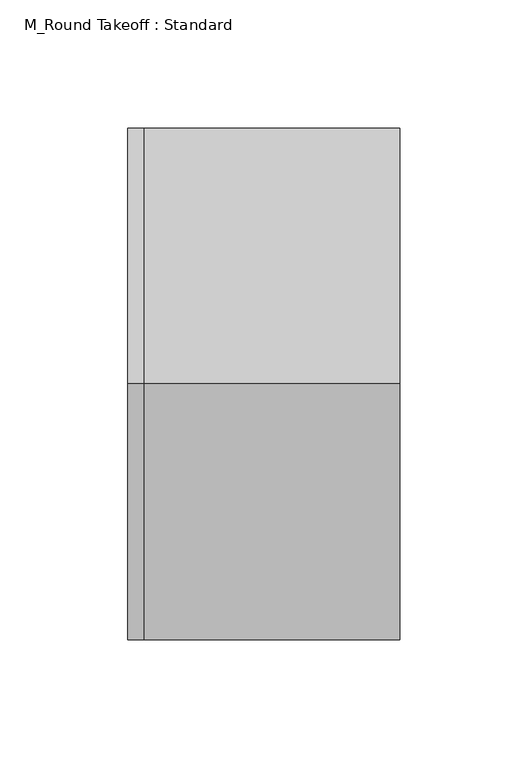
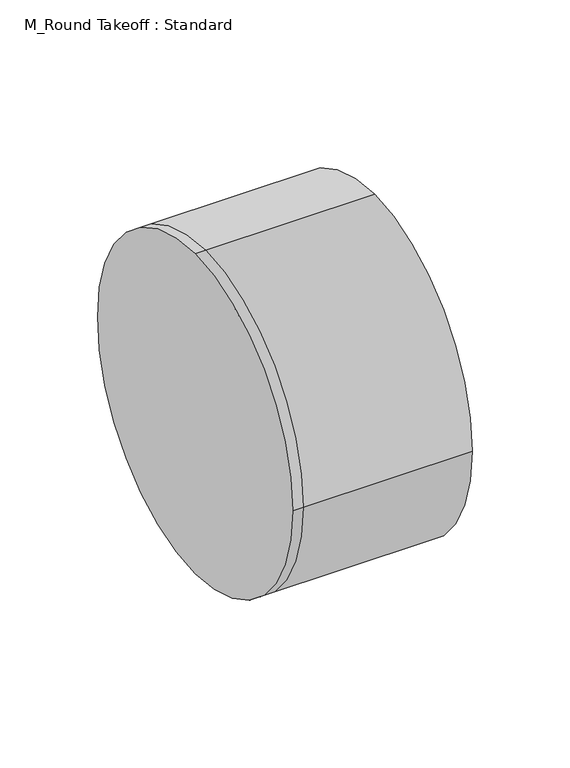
"""IFC4 building model written with IfcOpenShell, lengths in millimetres: duct fitting geometry, M_Round Takeoff : Standard."""

from ifc_helpers import new_model, si_unit, frame, origin, place, context, project, spatial, circle_curve, source, transform, mapped, element, save
from ifc_brep_helpers import plane_surface, cylinder_surface, advanced_brep


def m_round_takeoff_standard_5a05d64d(model_context):
    return source(origin(), model_context, "Body", "AdvancedBrep", [
        advanced_brep(
        [(-6.171, 0.0, 100.0), (-6.171, 100.0, 0.0), (-6.171, 0.0, -100.0), (-6.171, -100.0, 0.0), (0.0, -100.0, 0.0), (0.0, 0.0, 100.0), (0.0, 0.0, -100.0), (0.0, 100.0, 0.0), (100.075, 0.0, 100.0), (100.075, -100.0, 0.0), (100.075, 0.0, -100.0), (100.075, 100.0, 0.0)],
        [
            (0, 1, circle_curve(frame((-6.171, 0.0, 0.0), z_axis=(-1.0, 0.0, 0.0), x_axis=(0.0, -1.0, 0.0)), 100.0)),
            (1, 2, circle_curve(frame((-6.171, 0.0, 0.0), z_axis=(-1.0, 0.0, 0.0), x_axis=(0.0, -1.0, 0.0)), 100.0)),
            (2, 3, circle_curve(frame((-6.171, 0.0, 0.0), z_axis=(-1.0, 0.0, 0.0), x_axis=(0.0, -1.0, 0.0)), 100.0)),
            (3, 0, circle_curve(frame((-6.171, 0.0, 0.0), z_axis=(-1.0, 0.0, 0.0), x_axis=(0.0, -1.0, 0.0)), 100.0)),
            (3, 4),
            (4, 5, circle_curve(frame((0.0, 0.0, 0.0), z_axis=(-1.0, 0.0, 0.0), x_axis=(0.0, -1.0, 0.0)), 100.0)),
            (5, 0),
            (2, 6),
            (6, 4, circle_curve(frame((0.0, 0.0, 0.0), z_axis=(-1.0, 0.0, 0.0), x_axis=(0.0, -1.0, 0.0)), 100.0)),
            (1, 7),
            (7, 6, circle_curve(frame((0.0, 0.0, 0.0), z_axis=(-1.0, 0.0, 0.0), x_axis=(0.0, -1.0, 0.0)), 100.0)),
            (5, 7, circle_curve(frame((0.0, 0.0, 0.0), z_axis=(-1.0, 0.0, 0.0), x_axis=(0.0, -1.0, 0.0)), 100.0)),
            (8, 9, circle_curve(frame((100.075, 0.0, 0.0), z_axis=(1.0, 0.0, 0.0), x_axis=(0.0, -1.0, 0.0)), 100.0)),
            (9, 10, circle_curve(frame((100.075, 0.0, 0.0), z_axis=(1.0, 0.0, 0.0), x_axis=(0.0, -1.0, 0.0)), 100.0)),
            (10, 11, circle_curve(frame((100.075, 0.0, 0.0), z_axis=(1.0, 0.0, 0.0), x_axis=(0.0, -1.0, 0.0)), 100.0)),
            (11, 8, circle_curve(frame((100.075, 0.0, 0.0), z_axis=(1.0, 0.0, 0.0), x_axis=(0.0, -1.0, 0.0)), 100.0)),
            (8, 5),
            (4, 9),
            (6, 10),
            (7, 11),
        ],
        [
            plane_surface(frame((-6.171, 0.0, 0.0), z_axis=(-1.0, 0.0, 0.0), x_axis=(0.0, 0.0, 1.0))),
            cylinder_surface(frame((-6.171, 0.0, 0.0), z_axis=(-1.0, 0.0, 0.0), x_axis=(0.0, -1.0, 0.0)), 100.0),
            plane_surface(frame((100.075, 0.0, 0.0), z_axis=(1.0, 0.0, 0.0), x_axis=(0.0, 0.0, 1.0))),
            cylinder_surface(frame((0.0, 0.0, 0.0), z_axis=(-1.0, 0.0, 0.0), x_axis=(0.0, -1.0, 0.0)), 100.0),
        ],
        [
            (0, [[1, 2, 3, 4]]),
            (1, [[5, 6, 7, -4]]),
            (1, [[8, 9, -5, -3]]),
            (1, [[10, 11, -8, -2]]),
            (1, [[-7, 12, -10, -1]]),
            (2, [[13, 14, 15, 16]]),
            (3, [[17, -6, 18, -13]]),
            (3, [[-18, -9, 19, -14]]),
            (3, [[-19, -11, 20, -15]]),
            (3, [[-20, -12, -17, -16]]),
        ],
    ),
        advanced_brep(
        [(100.075, 0.0, 100.0), (100.075, -100.0, 0.0), (100.075, 0.0, -100.0), (100.075, 100.0, 0.0), (0.0, 0.0, 100.0), (0.0, -100.0, 0.0), (0.0, 0.0, -100.0), (0.0, 100.0, 0.0), (-6.171, 0.0, 100.0), (-6.171, 100.0, 0.0), (-6.171, 0.0, -100.0), (-6.171, -100.0, 0.0)],
        [
            (0, 1, circle_curve(frame((100.075, 0.0, 0.0), z_axis=(1.0, 0.0, 0.0), x_axis=(0.0, -1.0, 0.0)), 100.0)),
            (1, 2, circle_curve(frame((100.075, 0.0, 0.0), z_axis=(1.0, 0.0, 0.0), x_axis=(0.0, -1.0, 0.0)), 100.0)),
            (2, 3, circle_curve(frame((100.075, 0.0, 0.0), z_axis=(1.0, 0.0, 0.0), x_axis=(0.0, -1.0, 0.0)), 100.0)),
            (3, 0, circle_curve(frame((100.075, 0.0, 0.0), z_axis=(1.0, 0.0, 0.0), x_axis=(0.0, -1.0, 0.0)), 100.0)),
            (0, 4),
            (4, 5, circle_curve(frame((0.0, 0.0, 0.0), z_axis=(1.0, 0.0, 0.0), x_axis=(0.0, -1.0, 0.0)), 100.0)),
            (5, 1),
            (5, 6, circle_curve(frame((0.0, 0.0, 0.0), z_axis=(1.0, 0.0, 0.0), x_axis=(0.0, -1.0, 0.0)), 100.0)),
            (6, 2),
            (6, 7, circle_curve(frame((0.0, 0.0, 0.0), z_axis=(1.0, 0.0, 0.0), x_axis=(0.0, -1.0, 0.0)), 100.0)),
            (7, 3),
            (7, 4, circle_curve(frame((0.0, 0.0, 0.0), z_axis=(1.0, 0.0, 0.0), x_axis=(0.0, -1.0, 0.0)), 100.0)),
            (8, 9, circle_curve(frame((-6.171, 0.0, 0.0), z_axis=(-1.0, 0.0, 0.0), x_axis=(0.0, -1.0, 0.0)), 100.0)),
            (9, 10, circle_curve(frame((-6.171, 0.0, 0.0), z_axis=(-1.0, 0.0, 0.0), x_axis=(0.0, -1.0, 0.0)), 100.0)),
            (10, 11, circle_curve(frame((-6.171, 0.0, 0.0), z_axis=(-1.0, 0.0, 0.0), x_axis=(0.0, -1.0, 0.0)), 100.0)),
            (11, 8, circle_curve(frame((-6.171, 0.0, 0.0), z_axis=(-1.0, 0.0, 0.0), x_axis=(0.0, -1.0, 0.0)), 100.0)),
            (11, 5),
            (4, 8),
            (10, 6),
            (9, 7),
        ],
        [
            plane_surface(frame((100.075, 0.0, 0.0), z_axis=(1.0, 0.0, 0.0), x_axis=(0.0, 0.0, 1.0))),
            cylinder_surface(frame((0.0, 0.0, 0.0), z_axis=(-1.0, 0.0, 0.0), x_axis=(0.0, -1.0, 0.0)), 100.0),
            plane_surface(frame((-6.171, 0.0, 0.0), z_axis=(-1.0, 0.0, 0.0), x_axis=(0.0, 0.0, 1.0))),
            cylinder_surface(frame((-6.171, 0.0, 0.0), z_axis=(-1.0, 0.0, 0.0), x_axis=(0.0, -1.0, 0.0)), 100.0),
        ],
        [
            (0, [[1, 2, 3, 4]]),
            (1, [[5, 6, 7, -1]]),
            (1, [[-7, 8, 9, -2]]),
            (1, [[-9, 10, 11, -3]]),
            (1, [[-11, 12, -5, -4]]),
            (2, [[13, 14, 15, 16]]),
            (3, [[17, -6, 18, -16]]),
            (3, [[19, -8, -17, -15]]),
            (3, [[20, -10, -19, -14]]),
            (3, [[-18, -12, -20, -13]]),
        ],
    ),
        advanced_brep(
        [(-6.171, 0.0, 100.0), (-6.171, 100.0, 0.0), (-6.171, 0.0, -100.0), (-6.171, -100.0, 0.0), (0.0, -100.0, 0.0), (0.0, 0.0, 100.0), (0.0, 0.0, -100.0), (0.0, 100.0, 0.0), (100.075, 0.0, 100.0), (100.075, -100.0, 0.0), (100.075, 0.0, -100.0), (100.075, 100.0, 0.0)],
        [
            (0, 1, circle_curve(frame((-6.171, 0.0, 0.0), z_axis=(-1.0, 0.0, 0.0), x_axis=(0.0, -1.0, 0.0)), 100.0)),
            (1, 2, circle_curve(frame((-6.171, 0.0, 0.0), z_axis=(-1.0, 0.0, 0.0), x_axis=(0.0, -1.0, 0.0)), 100.0)),
            (2, 3, circle_curve(frame((-6.171, 0.0, 0.0), z_axis=(-1.0, 0.0, 0.0), x_axis=(0.0, -1.0, 0.0)), 100.0)),
            (3, 0, circle_curve(frame((-6.171, 0.0, 0.0), z_axis=(-1.0, 0.0, 0.0), x_axis=(0.0, -1.0, 0.0)), 100.0)),
            (3, 4),
            (4, 5, circle_curve(frame((0.0, 0.0, 0.0), z_axis=(-1.0, 0.0, 0.0), x_axis=(0.0, -1.0, 0.0)), 100.0)),
            (5, 0),
            (2, 6),
            (6, 4, circle_curve(frame((0.0, 0.0, 0.0), z_axis=(-1.0, 0.0, 0.0), x_axis=(0.0, -1.0, 0.0)), 100.0)),
            (1, 7),
            (7, 6, circle_curve(frame((0.0, 0.0, 0.0), z_axis=(-1.0, 0.0, 0.0), x_axis=(0.0, -1.0, 0.0)), 100.0)),
            (5, 7, circle_curve(frame((0.0, 0.0, 0.0), z_axis=(-1.0, 0.0, 0.0), x_axis=(0.0, -1.0, 0.0)), 100.0)),
            (8, 9, circle_curve(frame((100.075, 0.0, 0.0), z_axis=(1.0, 0.0, 0.0), x_axis=(0.0, -1.0, 0.0)), 100.0)),
            (9, 10, circle_curve(frame((100.075, 0.0, 0.0), z_axis=(1.0, 0.0, 0.0), x_axis=(0.0, -1.0, 0.0)), 100.0)),
            (10, 11, circle_curve(frame((100.075, 0.0, 0.0), z_axis=(1.0, 0.0, 0.0), x_axis=(0.0, -1.0, 0.0)), 100.0)),
            (11, 8, circle_curve(frame((100.075, 0.0, 0.0), z_axis=(1.0, 0.0, 0.0), x_axis=(0.0, -1.0, 0.0)), 100.0)),
            (8, 5),
            (4, 9),
            (6, 10),
            (7, 11),
        ],
        [
            plane_surface(frame((-6.171, 0.0, 0.0), z_axis=(-1.0, 0.0, 0.0), x_axis=(0.0, 0.0, 1.0))),
            cylinder_surface(frame((-6.171, 0.0, 0.0), z_axis=(-1.0, 0.0, 0.0), x_axis=(0.0, -1.0, 0.0)), 100.0),
            plane_surface(frame((100.075, 0.0, 0.0), z_axis=(1.0, 0.0, 0.0), x_axis=(0.0, 0.0, 1.0))),
            cylinder_surface(frame((0.0, 0.0, 0.0), z_axis=(-1.0, 0.0, 0.0), x_axis=(0.0, -1.0, 0.0)), 100.0),
        ],
        [
            (0, [[1, 2, 3, 4]]),
            (1, [[5, 6, 7, -4]]),
            (1, [[8, 9, -5, -3]]),
            (1, [[10, 11, -8, -2]]),
            (1, [[-7, 12, -10, -1]]),
            (2, [[13, 14, 15, 16]]),
            (3, [[17, -6, 18, -13]]),
            (3, [[-18, -9, 19, -14]]),
            (3, [[-19, -11, 20, -15]]),
            (3, [[-20, -12, -17, -16]]),
        ],
    ),
    ])


if __name__ == "__main__":
    model = new_model("IFC4")
    model_context = context("Model", 3, world=origin())
    ifc_project = project(units=[si_unit("LENGTHUNIT", "METRE", prefix="MILLI")], contexts=[model_context])
    site = spatial("IfcSite", under=ifc_project)
    building = spatial("IfcBuilding", under=site)
    placement = place(None, origin())
    m_round_takeoff_standard_shape = m_round_takeoff_standard_5a05d64d(model_context)
    element("IfcDuctFitting", 1, ObjectType="M_Round Takeoff : Standard", at=placement, inside=building, context=model_context, shape_type="MappedRepresentation", body=[
        mapped(m_round_takeoff_standard_shape, transform((0.0, 0.0, 0.0), x_axis=(1.0, 0.0, 0.0), y_axis=(0.0, 1.0, 0.0), z_axis=(0.0, 0.0, 1.0))),
    ])
    save(model, "model.ifc")
